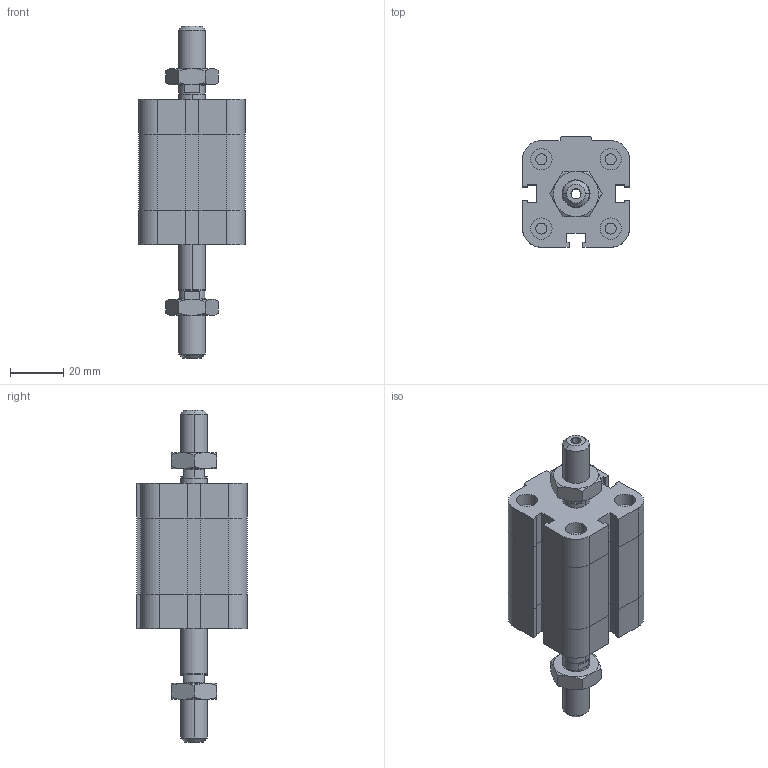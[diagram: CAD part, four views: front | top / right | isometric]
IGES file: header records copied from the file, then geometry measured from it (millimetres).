
Global section: file name: No Iges File Name specified; native system: Autodesk Inventor 2009; preprocessor: AutoDesk Inventor Iges Exporter R2009; author: maffial1; date: 20090420.142652; units: millimetre
Bounding box: 40 x 41.5 x 124.5 mm (x, y, z)
Volume: 82842.9 mm3; surface area: 24854.7 mm2
Topology: 4 solids, 4 shells, 262 faces, 580 edges, 346 vertices
Faces by surface type: plane 129, bspline 53, cone 38, cylinder 22, revolution 20
